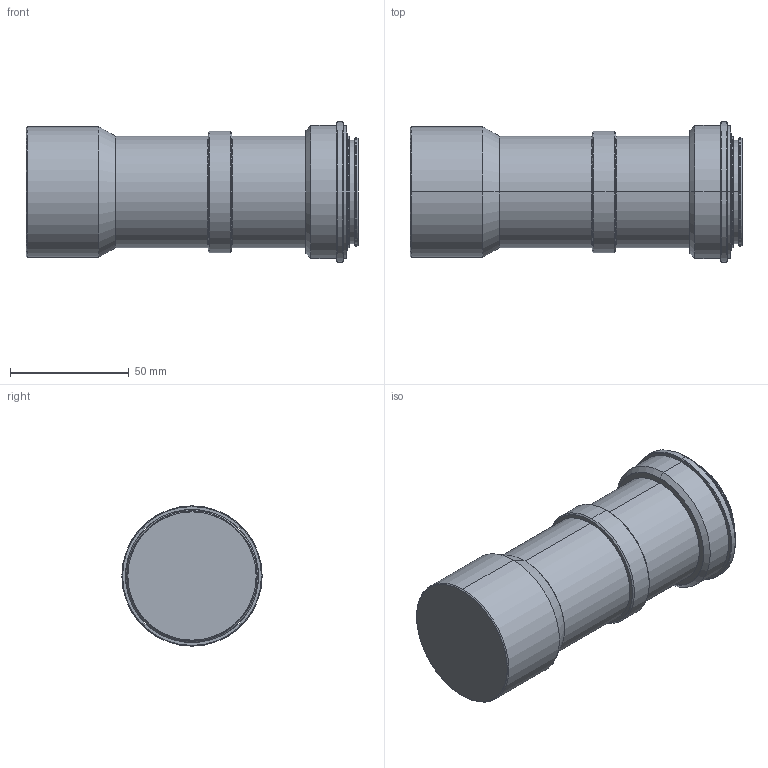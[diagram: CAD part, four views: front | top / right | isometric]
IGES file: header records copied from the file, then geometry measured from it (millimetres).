
Start section: SolidWorks IGES file using analytic representation for surfaces
Global section: file name: C:\Users\tsuji_vst\Documents\【図面】\_3D\00 VST\VS-LTC1-70-35_FS.IGS; native system: SolidWorks 2017; preprocessor: SolidWorks 2017; author: tsuji_vst; date: 170125.132552; units: millimetre
Bounding box: 139.7 x 59 x 59 mm (x, y, z)
Surface area: 28790.6 mm2 (no closed solid volume)
Topology: 0 solids, 0 shells, 62 faces, 1608 edges, 1608 vertices
Faces by surface type: revolution 50, bspline 12
